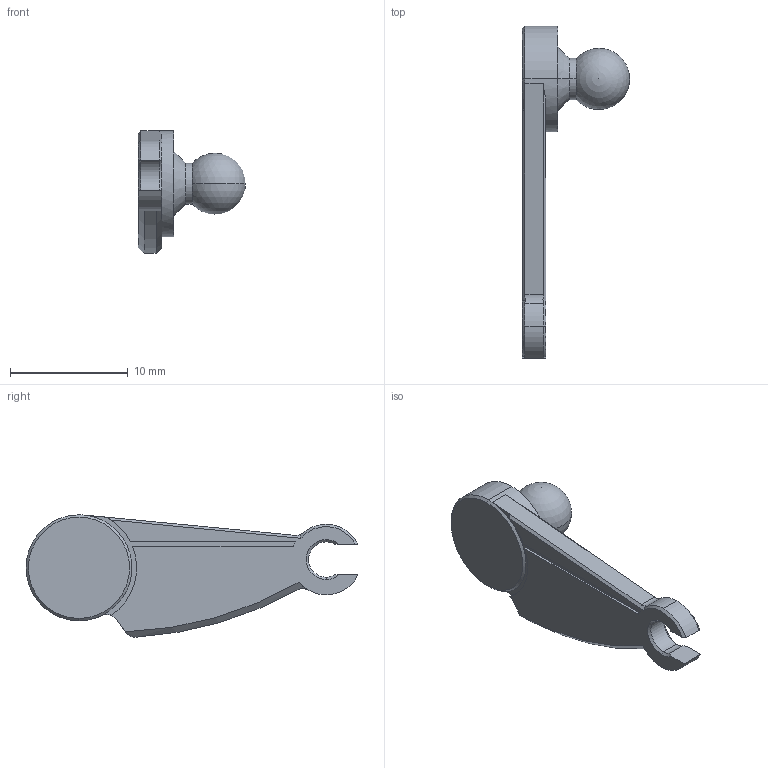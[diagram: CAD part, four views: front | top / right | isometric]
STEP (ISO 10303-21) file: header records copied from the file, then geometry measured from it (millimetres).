
FILE_DESCRIPTION (( 'STEP AP203' ), '1' );
FILE_NAME ('upper_leg_L.step', '2023-08-18T06:38:00', ( '' ), ( '' ), 'SwSTEP 2.0', 'SolidWorks 2020', '' );
FILE_SCHEMA (( 'CONFIG_CONTROL_DESIGN' ));
Length unit declared in the file: millimetre
Products named in the file (1): upper_leg_L
Bounding box: 9.1 x 28.2 x 10.39 mm (x, y, z)
Volume: 543.8 mm3; surface area: 647.9 mm2
Topology: 1 solids, 1 shells, 53 faces, 144 edges, 92 vertices
Faces by surface type: cylinder 20, plane 16, cone 15, sphere 2
Entity records: 1759 total; most frequent: CARTESIAN_POINT 368, DIRECTION 284, ORIENTED_EDGE 278, EDGE_CURVE 139, AXIS2_PLACEMENT_3D 113, VERTEX_POINT 89, CIRCLE 59, LINE 58
